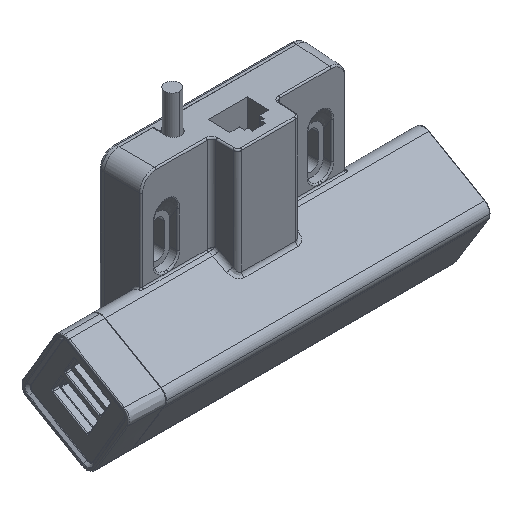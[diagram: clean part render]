
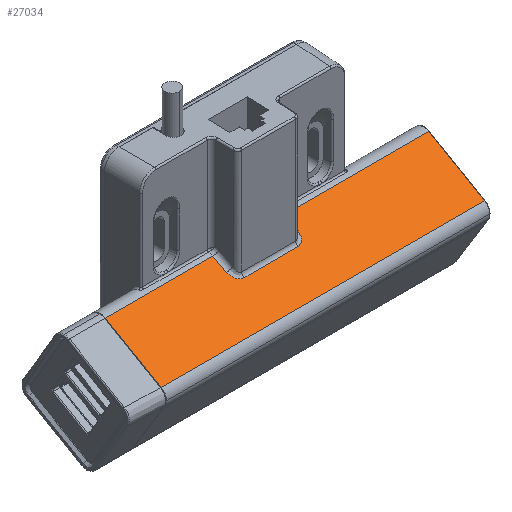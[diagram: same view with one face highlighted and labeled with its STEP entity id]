
A CAD part, isometric view. The second image highlights one B-rep face of the part: STEP entity #27034.
In plain terms, the highlighted planar face has unit normal (0, -0.5, 0.866).
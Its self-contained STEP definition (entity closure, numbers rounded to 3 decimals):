
#506 = EDGE_LOOP ( 'NONE', ( #13816, #9163, #15600, #27708, #7884, #17525, #25314, #29176, #15058, #23162 ) ) ;
#858 = LINE ( 'NONE', #25421, #18934 ) ;
#1144 = VERTEX_POINT ( 'NONE', #19780 ) ;
#1439 = CARTESIAN_POINT ( 'NONE',  ( 12.238, -16.953, 22.544 ) ) ;
#1528 = CARTESIAN_POINT ( 'NONE',  ( -11.983, -22.168, 19.533 ) ) ;
#1707 = CARTESIAN_POINT ( 'NONE',  ( 60.7, -35.772, 11.679 ) ) ;
#1825 = CARTESIAN_POINT ( 'NONE',  ( -11.448, -23.191, 18.942 ) ) ;
#2308 = CARTESIAN_POINT ( 'NONE',  ( 96.541, -35.772, 11.679 ) ) ;
#2589 = DIRECTION ( 'NONE',  ( 0., 0.866, 0.5 ) ) ;
#2785 = CARTESIAN_POINT ( 'NONE',  ( 96.541, -24.302, 18.301 ) ) ;
#3178 = VERTEX_POINT ( 'NONE', #15068 ) ;
#3509 = VERTEX_POINT ( 'NONE', #21901 ) ;
#3689 = FACE_OUTER_BOUND ( 'NONE', #506, .T. ) ;
#4043 = EDGE_CURVE ( 'NONE', #12407, #11634, #21278, .T. ) ;
#4199 = CARTESIAN_POINT ( 'NONE',  ( -11.667, -22.877, 19.123 ) ) ;
#4403 = CARTESIAN_POINT ( 'NONE',  ( 96.541, -16.953, 22.544 ) ) ;
#6077 = CARTESIAN_POINT ( 'NONE',  ( 10.805, -23.774, 18.606 ) ) ;
#6197 = CARTESIAN_POINT ( 'NONE',  ( -9.473, -24.302, 18.301 ) ) ;
#6273 = CARTESIAN_POINT ( 'NONE',  ( 10.297, -24.048, 18.447 ) ) ;
#6362 = DIRECTION ( 'NONE',  ( 0., -0.5, 0.866 ) ) ;
#6397 = EDGE_CURVE ( 'NONE', #1144, #25613, #10915, .T. ) ;
#6604 = EDGE_CURVE ( 'NONE', #27455, #1144, #21174, .T. ) ;
#6958 = VECTOR ( 'NONE', #11966, 1000. ) ;
#7128 = EDGE_CURVE ( 'NONE', #18157, #9408, #23622, .T. ) ;
#7339 = CARTESIAN_POINT ( 'NONE',  ( 96.541, -35.772, 11.679 ) ) ;
#7884 = ORIENTED_EDGE ( 'NONE', *, *, #25250, .T. ) ;
#8257 = CARTESIAN_POINT ( 'NONE',  ( 11.029, -23.595, 18.709 ) ) ;
#8463 = CARTESIAN_POINT ( 'NONE',  ( -9.849, -24.229, 18.343 ) ) ;
#8497 = VECTOR ( 'NONE', #13463, 1000. ) ;
#8770 = EDGE_CURVE ( 'NONE', #12407, #3178, #16909, .T. ) ;
#9163 = ORIENTED_EDGE ( 'NONE', *, *, #15048, .T. ) ;
#9327 = DIRECTION ( 'NONE',  ( -1., 0., 0. ) ) ;
#9408 = VERTEX_POINT ( 'NONE', #13976 ) ;
#10377 = CARTESIAN_POINT ( 'NONE',  ( 60.7, -35.772, 11.679 ) ) ;
#10460 = LINE ( 'NONE', #16534, #15473 ) ;
#10494 = CARTESIAN_POINT ( 'NONE',  ( 9.085, -24.302, 18.301 ) ) ;
#10613 = CARTESIAN_POINT ( 'NONE',  ( -10.568, -23.939, 18.511 ) ) ;
#10915 = B_SPLINE_CURVE_WITH_KNOTS ( 'NONE', 3,
 ( #26698, #6197, #8463, #10613, #24247, #1825, #4199, #1528, #17670, #20050 ),
 .UNSPECIFIED., .F., .F.,
 ( 4, 2, 2, 2, 4 ),
 ( 0., 0.25, 0.5, 0.75, 1. ),
 .UNSPECIFIED. ) ;
#11076 = CARTESIAN_POINT ( 'NONE',  ( 12.238, -16.953, 22.544 ) ) ;
#11634 = VERTEX_POINT ( 'NONE', #12715 ) ;
#11664 = VECTOR ( 'NONE', #15484, 1000. ) ;
#11925 = DIRECTION ( 'NONE',  ( 1., 0., 0. ) ) ;
#11966 = DIRECTION ( 'NONE',  ( -1., 0., 0. ) ) ;
#12407 = VERTEX_POINT ( 'NONE', #1439 ) ;
#12694 = CARTESIAN_POINT ( 'NONE',  ( 10.557, -23.918, 18.522 ) ) ;
#12715 = CARTESIAN_POINT ( 'NONE',  ( 12.083, -21.407, 19.972 ) ) ;
#12906 = CARTESIAN_POINT ( 'NONE',  ( 11.447, -23.191, 18.942 ) ) ;
#13008 = CARTESIAN_POINT ( 'NONE',  ( 11.668, -22.877, 19.124 ) ) ;
#13057 = EDGE_CURVE ( 'NONE', #9408, #3509, #28777, .T. ) ;
#13463 = DIRECTION ( 'NONE',  ( -0.03, -0.866, -0.5 ) ) ;
#13816 = ORIENTED_EDGE ( 'NONE', *, *, #7128, .F. ) ;
#13976 = CARTESIAN_POINT ( 'NONE',  ( -48.5, -35.772, 11.679 ) ) ;
#14380 = DIRECTION ( 'NONE',  ( -0.03, 0.866, 0.5 ) ) ;
#15048 = EDGE_CURVE ( 'NONE', #18157, #3178, #29378, .T. ) ;
#15058 = ORIENTED_EDGE ( 'NONE', *, *, #26662, .F. ) ;
#15068 = CARTESIAN_POINT ( 'NONE',  ( 60.7, -16.953, 22.544 ) ) ;
#15196 = CARTESIAN_POINT ( 'NONE',  ( 9.469, -24.302, 18.301 ) ) ;
#15473 = VECTOR ( 'NONE', #14380, 1000. ) ;
#15484 = DIRECTION ( 'NONE',  ( 0., 0.866, 0.5 ) ) ;
#15600 = ORIENTED_EDGE ( 'NONE', *, *, #8770, .F. ) ;
#15693 = VERTEX_POINT ( 'NONE', #22908 ) ;
#16534 = CARTESIAN_POINT ( 'NONE',  ( -12.083, -21.407, 19.972 ) ) ;
#16719 = VECTOR ( 'NONE', #2589, 1000. ) ;
#16909 = LINE ( 'NONE', #4403, #28620 ) ;
#17253 = CARTESIAN_POINT ( 'NONE',  ( 12.069, -21.795, 19.748 ) ) ;
#17525 = ORIENTED_EDGE ( 'NONE', *, *, #6604, .T. ) ;
#17670 = CARTESIAN_POINT ( 'NONE',  ( -12.069, -21.796, 19.748 ) ) ;
#18148 = DIRECTION ( 'NONE',  ( 0., -0.866, -0.5 ) ) ;
#18157 = VERTEX_POINT ( 'NONE', #10377 ) ;
#18934 = VECTOR ( 'NONE', #11925, 1000. ) ;
#19012 = VECTOR ( 'NONE', #9327, 1000. ) ;
#19079 = AXIS2_PLACEMENT_3D ( 'NONE', #2308, #6362, #18148 ) ;
#19234 = CARTESIAN_POINT ( 'NONE',  ( 9.085, -24.302, 18.301 ) ) ;
#19520 = CARTESIAN_POINT ( 'NONE',  ( 9.854, -24.227, 18.344 ) ) ;
#19732 = CARTESIAN_POINT ( 'NONE',  ( 10.386, -24.007, 18.471 ) ) ;
#19780 = CARTESIAN_POINT ( 'NONE',  ( -9.085, -24.302, 18.301 ) ) ;
#20050 = CARTESIAN_POINT ( 'NONE',  ( -12.083, -21.407, 19.972 ) ) ;
#20256 = DIRECTION ( 'NONE',  ( 1., 0., 0. ) ) ;
#20437 = PLANE ( 'NONE',  #19079 ) ;
#20730 = CARTESIAN_POINT ( 'NONE',  ( -48.5, -35.772, 11.679 ) ) ;
#21174 = LINE ( 'NONE', #2785, #19012 ) ;
#21278 = LINE ( 'NONE', #11076, #8497 ) ;
#21809 = CARTESIAN_POINT ( 'NONE',  ( -12.083, -21.407, 19.972 ) ) ;
#21901 = CARTESIAN_POINT ( 'NONE',  ( -48.5, -16.953, 22.544 ) ) ;
#22908 = CARTESIAN_POINT ( 'NONE',  ( -12.238, -16.953, 22.544 ) ) ;
#23162 = ORIENTED_EDGE ( 'NONE', *, *, #13057, .F. ) ;
#23622 = LINE ( 'NONE', #7339, #6958 ) ;
#24247 = CARTESIAN_POINT ( 'NONE',  ( -10.889, -23.73, 18.631 ) ) ;
#25250 = EDGE_CURVE ( 'NONE', #11634, #27455, #26982, .T. ) ;
#25314 = ORIENTED_EDGE ( 'NONE', *, *, #6397, .T. ) ;
#25421 = CARTESIAN_POINT ( 'NONE',  ( 96.541, -16.953, 22.544 ) ) ;
#25525 = EDGE_CURVE ( 'NONE', #25613, #15693, #10460, .T. ) ;
#25613 = VERTEX_POINT ( 'NONE', #21809 ) ;
#26189 = CARTESIAN_POINT ( 'NONE',  ( 12.083, -21.407, 19.972 ) ) ;
#26495 = CARTESIAN_POINT ( 'NONE',  ( 11.983, -22.168, 19.533 ) ) ;
#26662 = EDGE_CURVE ( 'NONE', #3509, #15693, #858, .T. ) ;
#26698 = CARTESIAN_POINT ( 'NONE',  ( -9.085, -24.302, 18.301 ) ) ;
#26982 = B_SPLINE_CURVE_WITH_KNOTS ( 'NONE', 3,
 ( #26189, #17253, #26495, #13008, #12906, #8257, #6077, #12694, #19732, #6273, #19520, #15196, #10494 ),
 .UNSPECIFIED., .F., .F.,
 ( 4, 2, 2, 1, 2, 2, 4 ),
 ( 0., 0.25, 0.5, 0.625, 0.688, 0.75, 1. ),
 .UNSPECIFIED. ) ;
#27034 = ADVANCED_FACE ( 'NONE', ( #3689 ), #20437, .T. ) ;
#27455 = VERTEX_POINT ( 'NONE', #19234 ) ;
#27708 = ORIENTED_EDGE ( 'NONE', *, *, #4043, .T. ) ;
#28620 = VECTOR ( 'NONE', #20256, 1000. ) ;
#28777 = LINE ( 'NONE', #20730, #16719 ) ;
#29176 = ORIENTED_EDGE ( 'NONE', *, *, #25525, .T. ) ;
#29378 = LINE ( 'NONE', #1707, #11664 ) ;
